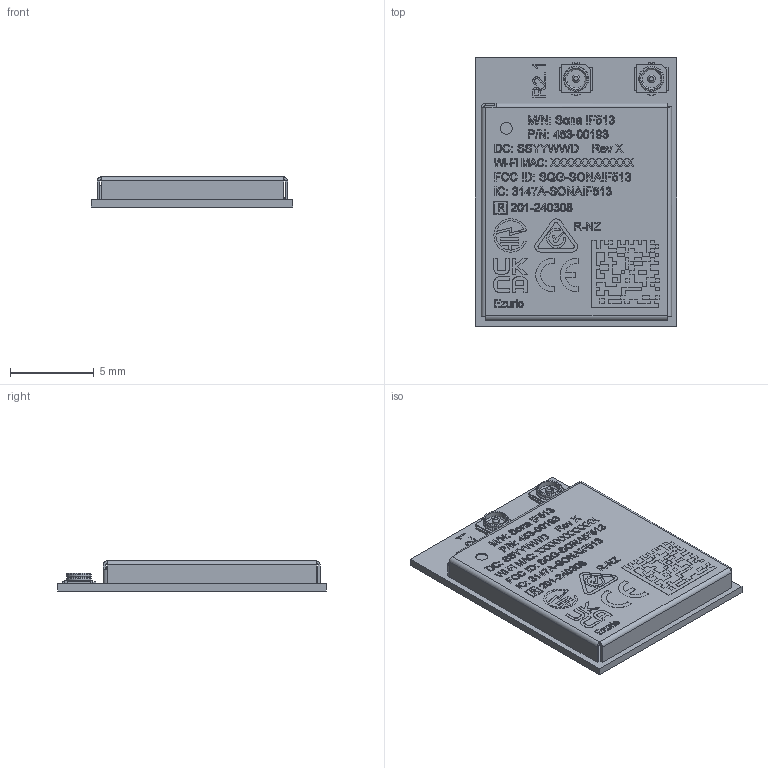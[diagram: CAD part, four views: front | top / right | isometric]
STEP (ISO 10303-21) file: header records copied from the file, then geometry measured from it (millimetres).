
FILE_DESCRIPTION (( 'STEP AP214' ), '1' );
FILE_NAME ('453-00193.STEP', '2026-05-25T09:47:47', ( '' ), ( '' ), 'SwSTEP 2.0', 'SolidWorks 2025', '' );
FILE_SCHEMA (( 'AUTOMOTIVE_DESIGN' ));
Length unit declared in the file: millimetre
Products named in the file (4): 750-03415-11103401_940-00328, Diversity, MHF4L; 453-00193; 110-00826_453-00193; 940-00328_Laser
Assembly tree (3 placements, depth 3):
  453-00193
    940-00328_Laser
      750-03415-11103401_940-00328, Diversity, MHF4L
      110-00826_453-00193
Bounding box: 12 x 16 x 1.82 mm (x, y, z)
Volume: 29.3 mm3; surface area: 1174.9 mm2
Topology: 1 solids, 325 shells, 5068 faces, 12236 edges, 7918 vertices
Faces by surface type: plane 3675, bspline 740, cylinder 497, sphere 136, cone 20
Entity records: 236210 total; most frequent: CARTESIAN_POINT 66619, ORIENTED_EDGE 24098, DIRECTION 19906, EDGE_CURVE 12100, VECTOR 9334, LINE 9334, VERTEX_POINT 7918, EDGE_LOOP 5308
